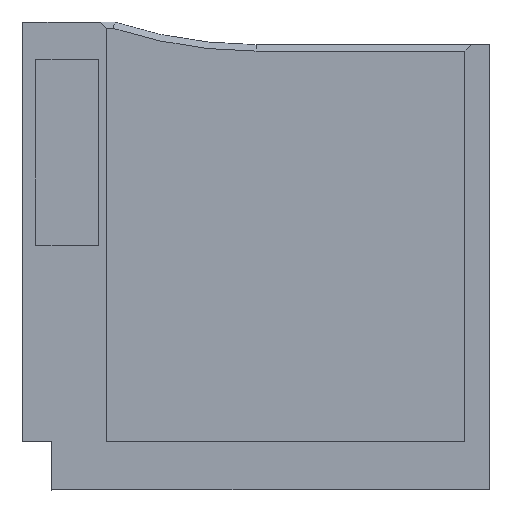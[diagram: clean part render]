
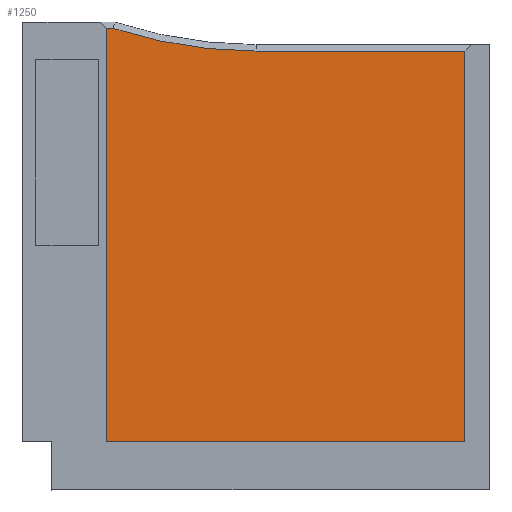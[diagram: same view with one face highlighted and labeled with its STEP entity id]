
A CAD part, top view. The second image highlights one B-rep face of the part: STEP entity #1250.
In plain terms, the highlighted planar face has unit normal (0, 0, 1).
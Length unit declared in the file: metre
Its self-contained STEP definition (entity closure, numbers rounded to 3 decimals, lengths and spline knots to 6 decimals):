
#22=CIRCLE('',#1752,0.014222);
#118=ORIENTED_EDGE('',*,*,#397,.T.);
#119=ORIENTED_EDGE('',*,*,#394,.T.);
#120=ORIENTED_EDGE('',*,*,#408,.F.);
#121=ORIENTED_EDGE('',*,*,#407,.F.);
#122=ORIENTED_EDGE('',*,*,#410,.T.);
#123=ORIENTED_EDGE('',*,*,#400,.T.);
#394=EDGE_CURVE('',#541,#537,#660,.T.);
#397=EDGE_CURVE('',#543,#541,#22,.T.);
#400=EDGE_CURVE('',#545,#543,#664,.T.);
#407=EDGE_CURVE('',#552,#549,#671,.T.);
#408=EDGE_CURVE('',#549,#537,#672,.T.);
#410=EDGE_CURVE('',#552,#545,#674,.T.);
#537=VERTEX_POINT('',#2203);
#541=VERTEX_POINT('',#2215);
#543=VERTEX_POINT('',#2221);
#545=VERTEX_POINT('',#2227);
#549=VERTEX_POINT('',#2239);
#552=VERTEX_POINT('',#2244);
#660=LINE('',#2218,#811);
#664=LINE('',#2230,#815);
#671=LINE('',#2245,#822);
#672=LINE('',#2247,#823);
#674=LINE('',#2250,#825);
#811=VECTOR('',#1893,1.);
#815=VECTOR('',#1905,1.);
#822=VECTOR('',#1916,1.);
#823=VECTOR('',#1919,1.);
#825=VECTOR('',#1923,1.);
#945=EDGE_LOOP('',(#118,#119,#120,#121,#122,#123));
#1030=FACE_BOUND('',#945,.T.);
#1114=PLANE('',#1757);
#1250=ADVANCED_FACE('',(#1030),#1114,.F.);
#1752=AXIS2_PLACEMENT_3D('',#2224,#1899,#1900);
#1757=AXIS2_PLACEMENT_3D('',#2249,#1921,#1922);
#1893=DIRECTION('',(-1.,0.,0.));
#1899=DIRECTION('',(0.,0.,-1.));
#1900=DIRECTION('',(1.,0.,0.));
#1905=DIRECTION('',(-1.,0.,0.));
#1916=DIRECTION('',(-1.,0.,0.));
#1919=DIRECTION('',(0.,1.,0.));
#1921=DIRECTION('',(0.,0.,-1.));
#1922=DIRECTION('',(1.,0.,0.));
#1923=DIRECTION('',(0.,1.,0.));
#2203=CARTESIAN_POINT('',(-0.097858,-0.002418,0.01045));
#2215=CARTESIAN_POINT('',(-0.097668,-0.002414,0.01045));
#2218=CARTESIAN_POINT('',(-0.097858,-0.002418,0.01045));
#2221=CARTESIAN_POINT('',(-0.093233,-0.003118,0.01045));
#2224=CARTESIAN_POINT('',(-0.093233,0.011103,0.01045));
#2227=CARTESIAN_POINT('',(-0.086758,-0.003118,0.01045));
#2230=CARTESIAN_POINT('',(-0.097858,-0.003118,0.01045));
#2239=CARTESIAN_POINT('',(-0.097858,-0.015218,0.01045));
#2244=CARTESIAN_POINT('',(-0.086758,-0.015218,0.01045));
#2245=CARTESIAN_POINT('',(-0.097858,-0.015218,0.01045));
#2247=CARTESIAN_POINT('',(-0.097858,-0.015218,0.01045));
#2249=CARTESIAN_POINT('',(-0.097858,-0.015218,0.01045));
#2250=CARTESIAN_POINT('',(-0.086758,-0.015218,0.01045));
